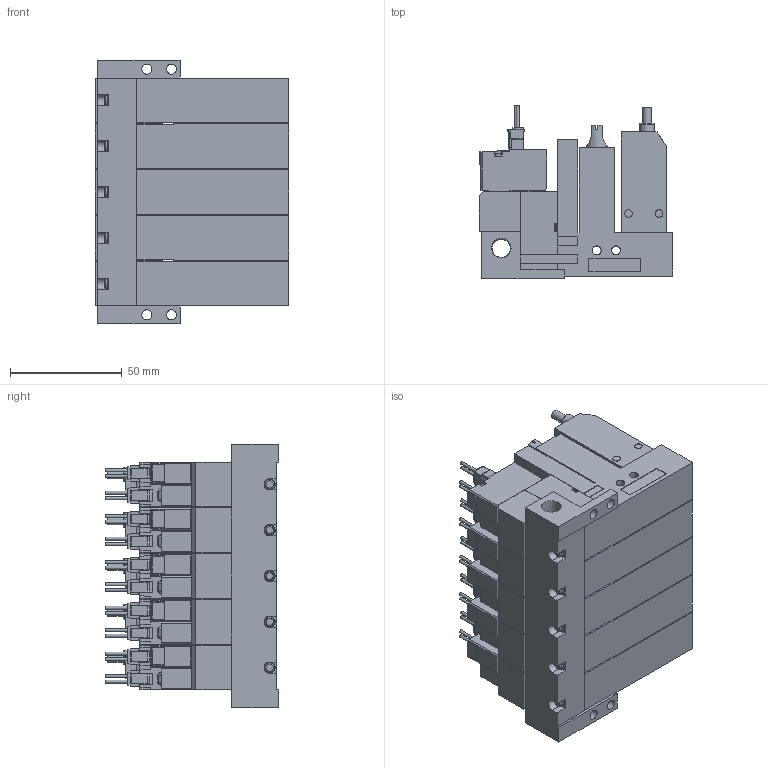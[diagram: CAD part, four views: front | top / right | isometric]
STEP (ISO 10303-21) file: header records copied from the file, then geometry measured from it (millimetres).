
FILE_DESCRIPTION(('STEP AP203'),'1');
FILE_NAME('ABS_ABPL5ALR505.stp','2025-02-19T00:55:13',(' '),(' '),'Spatial InterOp 3D',' ',' ');
FILE_SCHEMA(('CONFIG_CONTROL_DESIGN'));
Length unit declared in the file: millimetre
Products named in the file (5): BMC22M※※※※ABS_ABPL5ALR505; Solenoid valve A; Pressure sensor ABSL; Unit L; Base MR50R
Assembly tree (16 placements, depth 2):
  BMC22M※※※※ABS_ABPL5ALR505
    Solenoid valve A  x5
    Pressure sensor ABSL  x5
    Unit L  x5
    Base MR50R
Bounding box: 86.6 x 77.45 x 118 mm (x, y, z)
Volume: 451118.3 mm3; surface area: 125025.1 mm2
Topology: 16 solids, 16 shells, 1896 faces, 5079 edges, 3345 vertices
Faces by surface type: plane 1604, cylinder 235, cone 37, torus 20
Full cylindrical faces by diameter (mm): 1.4 x20, 2.5 x5, 3 x20, 3.5 x30, 3.6 x5, 4 x15, 4.134 x5, 4.5 x4, 5.2 x5, 6 x5, 6.5 x5, 6.6 x5, 8.279 x1
Entity records: 14227 total; most frequent: CARTESIAN_POINT 2691, DIRECTION 2268, ORIENTED_EDGE 2230, EDGE_CURVE 1115, LINE 906, VECTOR 906, VERTEX_POINT 779, AXIS2_PLACEMENT_3D 681
